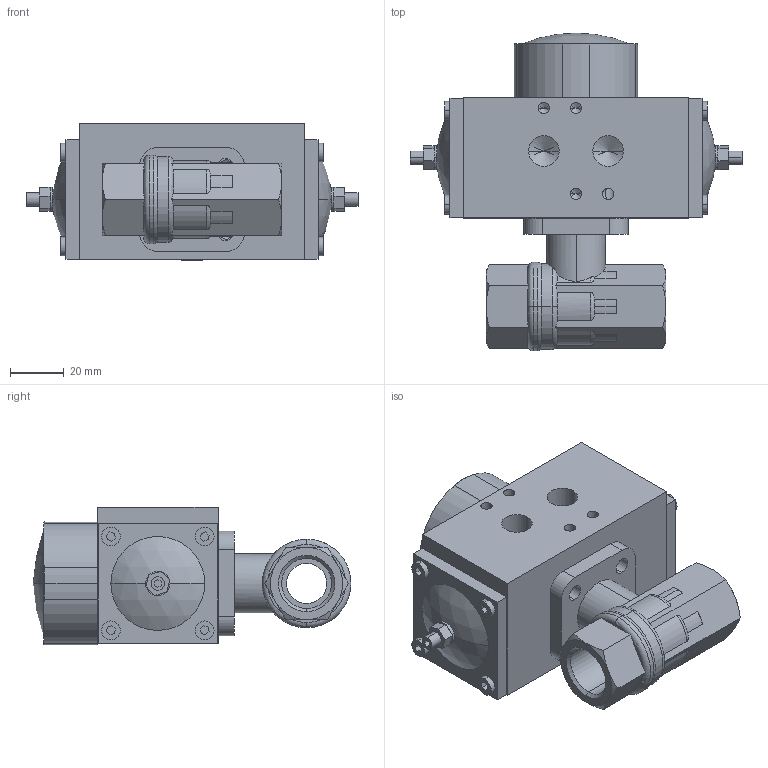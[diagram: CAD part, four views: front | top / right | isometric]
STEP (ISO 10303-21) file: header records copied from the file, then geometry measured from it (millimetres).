
FILE_DESCRIPTION (( 'STEP AP214' ), '1' );
FILE_NAME ('A25-DN15-G1_2+AP0.step', '2011-03-03T09:46:27', ( '' ), ( '' ), 'SwSTEP 2.0', 'SolidWorks 2011', '' );
FILE_SCHEMA (( 'AUTOMOTIVE_DESIGN' ));
Length unit declared in the file: millimetre
Products named in the file (3): AP0_Default<As Machined>; Ballvalve A25-DN15 G1_2; A25-DN15-G1_2+AP0
Assembly tree (2 placements, depth 2):
  A25-DN15-G1_2+AP0
    AP0_Default<As Machined>
    Ballvalve A25-DN15 G1_2
Bounding box: 123.81 x 118.49 x 51.44 mm (x, y, z)
Volume: 347150.1 mm3; surface area: 63360.2 mm2
Topology: 6 solids, 6 shells, 384 faces, 941 edges, 589 vertices
Faces by surface type: plane 213, cylinder 106, cone 45, torus 14, sphere 6
Entity records: 12538 total; most frequent: CARTESIAN_POINT 2459, DIRECTION 1905, ORIENTED_EDGE 1830, EDGE_CURVE 915, AXIS2_PLACEMENT_3D 675, VERTEX_POINT 589, LINE 555, VECTOR 555
